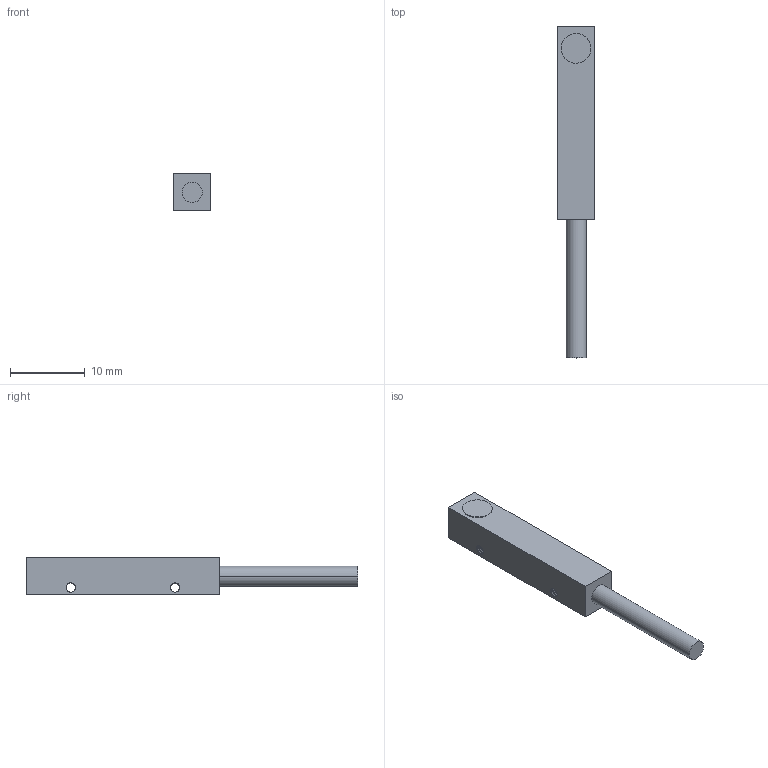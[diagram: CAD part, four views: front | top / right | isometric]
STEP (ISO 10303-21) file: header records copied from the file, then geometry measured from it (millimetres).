
FILE_DESCRIPTION(('STEP AP214'),'1');
FILE_NAME('Z:/3D-Daten INIS/tmp1.STEP','2021-01-14T12:22:40',(' '),(' '),'Spatial InterOp 3D',' ',' ');
FILE_SCHEMA(('automotive_design'));
Length unit declared in the file: millimetre
Products named in the file (1): 1
Bounding box: 5 x 44.56 x 5.1 mm (x, y, z)
Volume: 742.3 mm3; surface area: 794.7 mm2
Topology: 1 solids, 1 shells, 248 faces, 500 edges, 256 vertices
Faces by surface type: cylinder 120, cone 120, plane 8
Entity records: 8272 total; most frequent: DIRECTION 1246, CARTESIAN_POINT 1005, ORIENTED_EDGE 1000, EDGE_CURVE 500, AXIS2_PLACEMENT_3D 497, VERTEX_POINT 256, EDGE_LOOP 254, LINE 252
